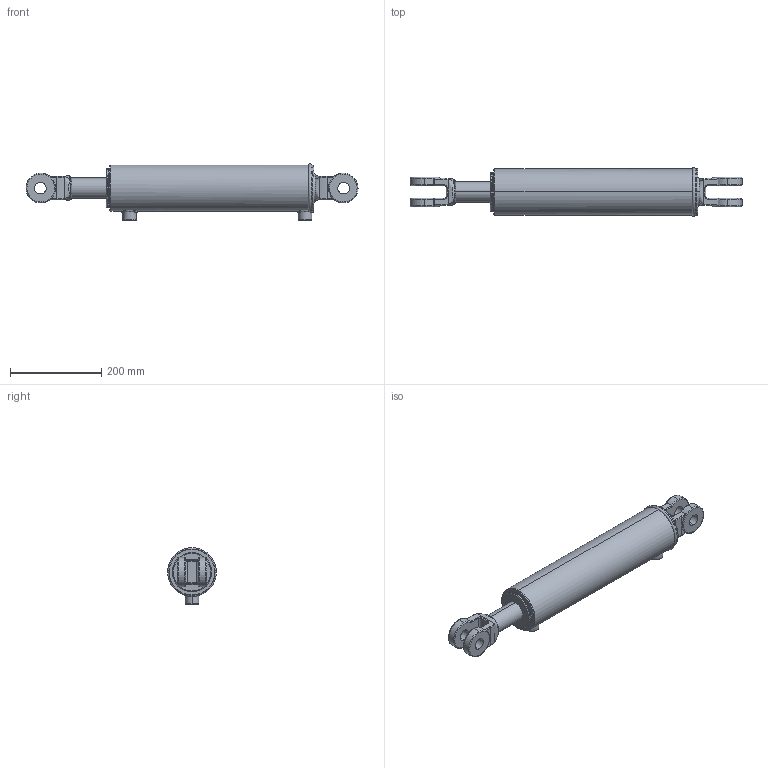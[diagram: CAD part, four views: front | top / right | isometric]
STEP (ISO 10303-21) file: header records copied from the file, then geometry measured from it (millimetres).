
FILE_DESCRIPTION (( 'STEP AP203' ), '1' );
FILE_NAME ('CL-CL350175x355 (14).STEP', '2014-11-22T16:34:40', ( '' ), ( '' ), 'SwSTEP 2.0', 'SolidWorks 2014', '' );
FILE_SCHEMA (( 'CONFIG_CONTROL_DESIGN' ));
Length unit declared in the file: millimetre
Products named in the file (4): CL-CL300150x  body_3.5x14; 3 in ext circlip; SPARE 6_14x1.75; CL-CL350175x355 (14)
Assembly tree (3 placements, depth 2):
  CL-CL350175x355 (14)
    CL-CL300150x  body_3.5x14
    3 in ext circlip
    SPARE 6_14x1.75
Bounding box: 729.39 x 107.31 x 124.49 mm (x, y, z)
Volume: 4160754.7 mm3; surface area: 350980.9 mm2
Topology: 3 solids, 3 shells, 211 faces, 518 edges, 319 vertices
Faces by surface type: cylinder 91, bspline 59, plane 38, torus 15, cone 8
Entity records: 11321 total; most frequent: CARTESIAN_POINT 6234, ORIENTED_EDGE 1028, DIRECTION 941, EDGE_CURVE 514, AXIS2_PLACEMENT_3D 393, VERTEX_POINT 319, CIRCLE 235, EDGE_LOOP 233
